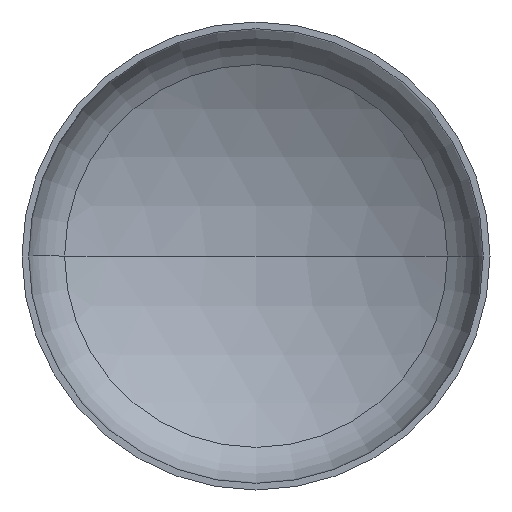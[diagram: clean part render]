
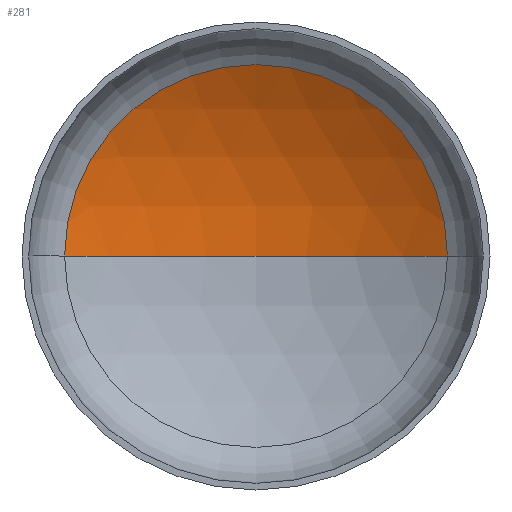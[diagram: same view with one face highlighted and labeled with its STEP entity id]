
A CAD part, front view. The second image highlights one B-rep face of the part: STEP entity #281.
In plain terms, the highlighted spherical face has radius 560 mm.
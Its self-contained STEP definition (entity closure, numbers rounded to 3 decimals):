
#8 = CARTESIAN_POINT ( 'NONE',  ( 0., -356.782, 0. ) ) ;
#27 = ORIENTED_EDGE ( 'NONE', *, *, #338, .T. ) ;
#34 = ORIENTED_EDGE ( 'NONE', *, *, #341, .T. ) ;
#41 = AXIS2_PLACEMENT_3D ( 'NONE', #384, #224, #302 ) ;
#44 = AXIS2_PLACEMENT_3D ( 'NONE', #168, #314, #351 ) ;
#62 = AXIS2_PLACEMENT_3D ( 'NONE', #84, #223, #82 ) ;
#82 = DIRECTION ( 'NONE',  ( -1., 0., 0. ) ) ;
#84 = CARTESIAN_POINT ( 'NONE',  ( 0., -356.782, 0. ) ) ;
#91 = CIRCLE ( 'NONE', #41, 560. ) ;
#134 = FACE_OUTER_BOUND ( 'NONE', #283, .T. ) ;
#138 = CARTESIAN_POINT ( 'NONE',  ( 0., 203.218, 0. ) ) ;
#168 = CARTESIAN_POINT ( 'NONE',  ( 0., 124.547, 0. ) ) ;
#170 = DIRECTION ( 'NONE',  ( 0., 0., 1. ) ) ;
#185 = VERTEX_POINT ( 'NONE', #138 ) ;
#202 = AXIS2_PLACEMENT_3D ( 'NONE', #8, #170, #361 ) ;
#223 = DIRECTION ( 'NONE',  ( 0., 0., -1. ) ) ;
#224 = DIRECTION ( 'NONE',  ( 0., 0., -1. ) ) ;
#257 = CIRCLE ( 'NONE', #44, 286.222 ) ;
#275 = VERTEX_POINT ( 'NONE', #355 ) ;
#281 = ADVANCED_FACE ( 'NONE', ( #134 ), #407, .F. ) ;
#283 = EDGE_LOOP ( 'NONE', ( #331, #34, #27 ) ) ;
#302 = DIRECTION ( 'NONE',  ( -1., 0., 0. ) ) ;
#314 = DIRECTION ( 'NONE',  ( 0., -1., 0. ) ) ;
#319 = VERTEX_POINT ( 'NONE', #381 ) ;
#331 = ORIENTED_EDGE ( 'NONE', *, *, #390, .F. ) ;
#338 = EDGE_CURVE ( 'NONE', #319, #275, #257, .T. ) ;
#341 = EDGE_CURVE ( 'NONE', #185, #319, #91, .T. ) ;
#351 = DIRECTION ( 'NONE',  ( 1., 0., 0. ) ) ;
#355 = CARTESIAN_POINT ( 'NONE',  ( -286.222, 124.547, 0. ) ) ;
#361 = DIRECTION ( 'NONE',  ( 1., 0., 0. ) ) ;
#370 = CIRCLE ( 'NONE', #202, 560. ) ;
#381 = CARTESIAN_POINT ( 'NONE',  ( 286.222, 124.547, 0. ) ) ;
#384 = CARTESIAN_POINT ( 'NONE',  ( 0., -356.782, 0. ) ) ;
#390 = EDGE_CURVE ( 'NONE', #185, #275, #370, .T. ) ;
#407 = SPHERICAL_SURFACE ( 'NONE', #62, 560. ) ;
